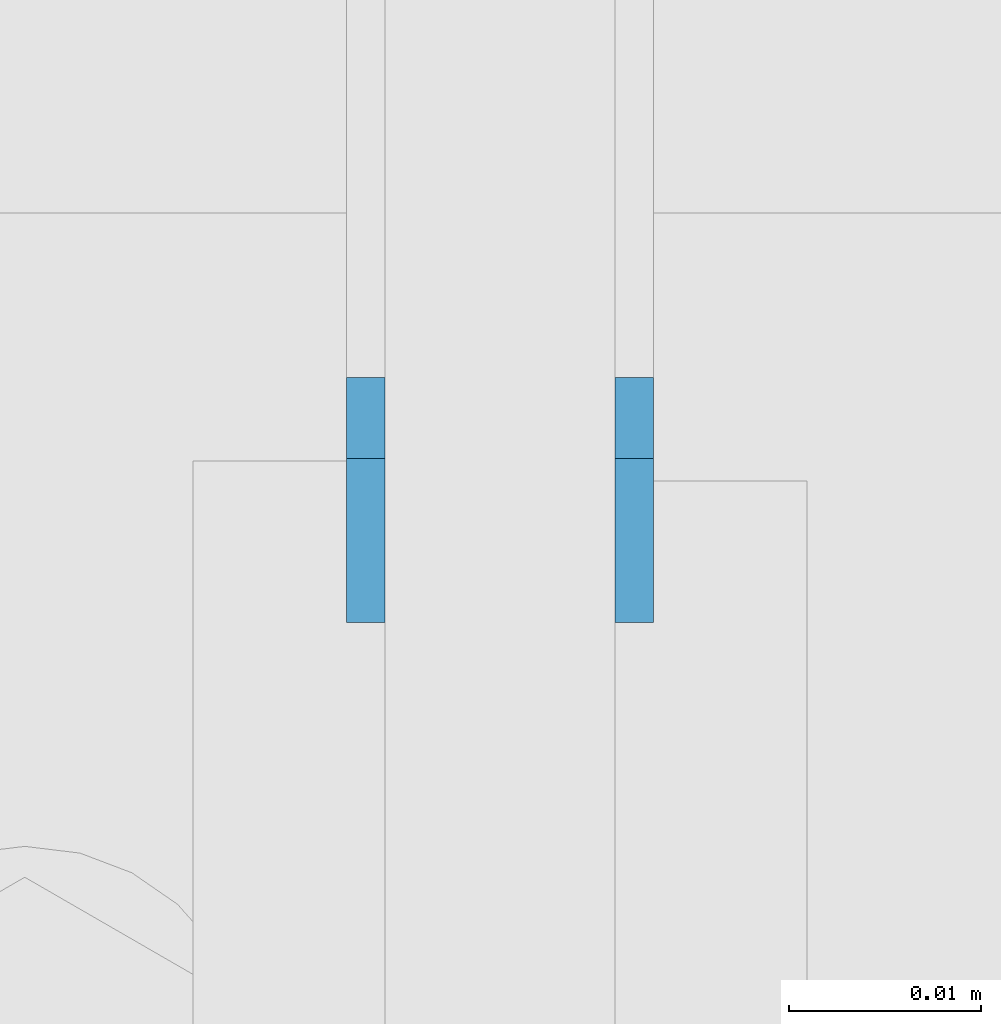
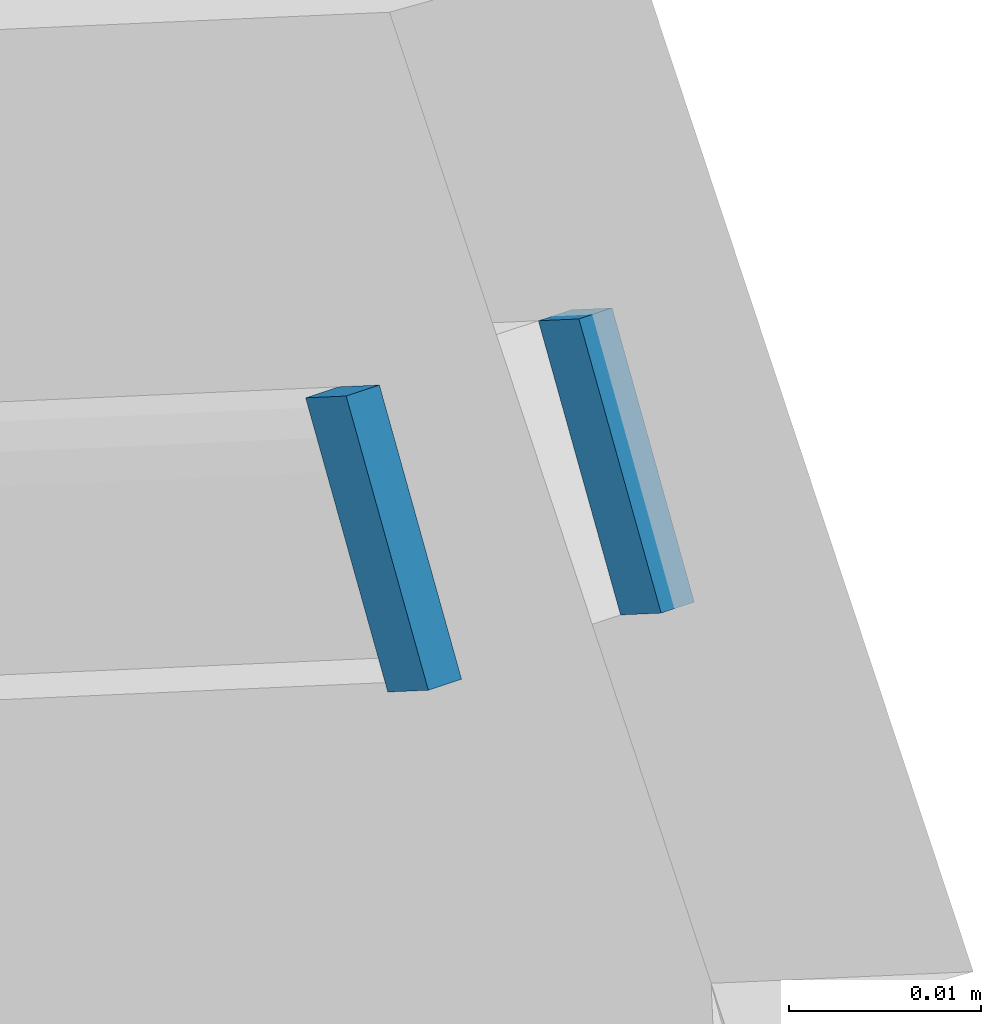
# One storey, part 209 of 271: 2 plates, 1 element without a shape of its own.
"""IFC2X3 building model written with IfcOpenShell, lengths in millimetres."""

from ifc_helpers import new_model, si_unit, frame, origin_with_axes, place, context, subcontext, project, spatial, polyline, outline, extrude, material, type_object, element, aggregate, save


model = new_model("IFC2X3")

# Units and contexts
model_context = context("Model", 3, precision=1e-05, world=origin_with_axes())
body_context = subcontext(model_context, "Body", "Model", "MODEL_VIEW")
ifc_project = project(units=[si_unit("LENGTHUNIT", "METRE", prefix="MILLI"), si_unit("AREAUNIT", "SQUARE_METRE"), si_unit("VOLUMEUNIT", "CUBIC_METRE"), si_unit("MASSUNIT", "GRAM", prefix="KILO"), si_unit("TIMEUNIT", "SECOND"), si_unit("PLANEANGLEUNIT", "RADIAN"), si_unit("SOLIDANGLEUNIT", "STERADIAN"), si_unit("THERMODYNAMICTEMPERATUREUNIT", "DEGREE_CELSIUS"), si_unit("LUMINOUSINTENSITYUNIT", "LUMEN")], contexts=[model_context])

# Site, building, storey
site_placement = place(None, origin_with_axes())
site = spatial("IfcSite", under=ifc_project, at=site_placement, Name="Undefined", CompositionType="ELEMENT")
building_placement = place(site_placement, origin_with_axes())
building = spatial("IfcBuilding", under=site, at=building_placement, Name="Undefined", CompositionType="ELEMENT")
storey_placement = place(building_placement, origin_with_axes())
storey = spatial("IfcBuildingStorey", under=building, at=storey_placement, Name="Undefined", CompositionType="ELEMENT", Elevation=0.0)

# Assembly, plates
assembly_placement = place(storey_placement, origin_with_axes())
assembly = element("IfcElementAssembly", 1, at=assembly_placement, inside=storey, AssemblyPlace="NOTDEFINED", PredefinedType="RIGID_FRAME")
ifc_material = material(Name="STEEL/S355JR")
plate_type = type_object("IfcPlateType", Name="BL5*2", PredefinedType="NOTDEFINED")
plate_1_placement = place(assembly_placement, frame((12603.7513748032, 220.759797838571, 1228.46337139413), z_axis=(0.0, 0.84477188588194, -0.535126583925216), x_axis=(0.0, 0.535126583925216, 0.84477188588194)))
plate_1 = element("IfcPlate", 2, at=plate_1_placement, type_object=plate_type, material=ifc_material, Name="BLACHA", ObjectType="BL5*2", context=body_context, shape_type="SweptSolid", body=[
    extrude(outline(polyline([(0.0, 0.0), (15.9999980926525, -7.67386154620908e-13), (15.9999980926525, 1.99999964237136), (0.0, 1.99999964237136), (0.0, 0.0)])), frame((0.0, 0.0, -2.5), z_axis=(0.0, 0.0, 1.0), x_axis=(1.0, 0.0, 0.0)), (0.0, 0.0, 1.0), 5.0),
])
plate_2_placement = place(assembly_placement, frame((12589.7513751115, 220.759797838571, 1228.46337139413), z_axis=(0.0, 0.84477188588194, -0.535126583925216), x_axis=(0.0, 0.535126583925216, 0.84477188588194)))
plate_2 = element("IfcPlate", 3, at=plate_2_placement, type_object=plate_type, material=ifc_material, Name="BLACHA", ObjectType="BL5*2", context=body_context, shape_type="SweptSolid", body=[
    extrude(outline(polyline([(0.0, 0.0), (15.9999980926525, -7.67386154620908e-13), (15.9999980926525, 1.99999964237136), (0.0, 1.99999964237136), (0.0, 0.0)])), frame((0.0, 0.0, -2.5), z_axis=(0.0, 0.0, 1.0), x_axis=(1.0, 0.0, 0.0)), (0.0, 0.0, 1.0), 5.0),
])
aggregate(assembly, [plate_1, plate_2])

save(model, "model.ifc")
